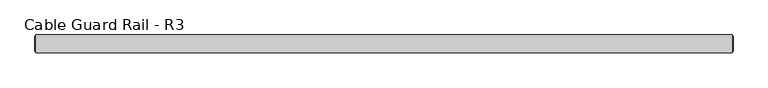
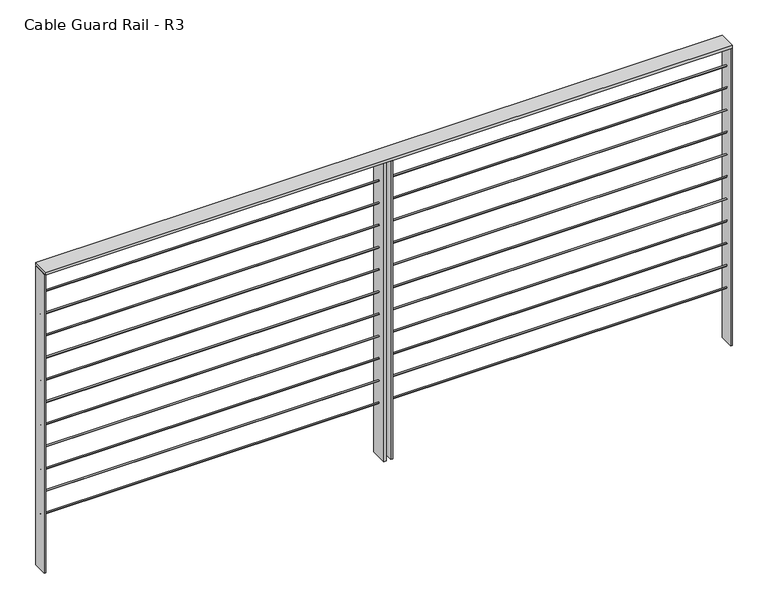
"""IFC4 building model written with IfcOpenShell, lengths in millimetres: railing geometry, Cable Guard Rail - R3."""

from ifc_helpers import new_model, si_unit, point, frame, frame_2d, origin, place, context, project, spatial, polyline, circle_curve, trimmed, segment, composite_curve, outline, extrude, source, transform, mapped, element, save


def cable_guard_rail_r3_f7cf98e5(model_context):
    return source(origin(), model_context, "Body", "SweptSolid", [
        extrude(outline(polyline([(37080.3654546, 222790.3454803), (37080.3654546, 222866.5454803), (40048.1015892, 222866.5454803), (40048.1015892, 222790.3454803), (37080.3654546, 222790.3454803)])), frame((0.0, 0.0, 295916.35), z_axis=(0.0, 0.0, 1.0), x_axis=(1.0, 0.0, 0.0)), (0.0, 0.0, 1.0), 12.7),
        extrude(outline(composite_curve([segment(trimmed(circle_curve(frame_2d((222828.4454803, 295814.75)), 3.175), [point((222825.2704803, 295814.75))], [point((222831.6204803, 295814.75))], False, "CARTESIAN"), True, "CONTINUOUS"), segment(trimmed(circle_curve(frame_2d((222828.4454803, 295814.75)), 3.175), [point((222831.6204803, 295814.75))], [point((222825.2704803, 295814.75))], False, "CARTESIAN"), True, "CONTINUOUS")], self_intersect=False)), frame((37080.3654546, 0.0, 0.0), z_axis=(1.0, 0.0, 0.0), x_axis=(0.0, 1.0, 0.0)), (0.0, 0.0, 1.0), 2967.7361346),
        extrude(outline(composite_curve([segment(trimmed(circle_curve(frame_2d((222828.4454803, 295713.15)), 3.175), [point((222825.2704803, 295713.15))], [point((222831.6204803, 295713.15))], False, "CARTESIAN"), True, "CONTINUOUS"), segment(trimmed(circle_curve(frame_2d((222828.4454803, 295713.15)), 3.175), [point((222831.6204803, 295713.15))], [point((222825.2704803, 295713.15))], False, "CARTESIAN"), True, "CONTINUOUS")], self_intersect=False)), frame((37080.3654546, 0.0, 0.0), z_axis=(1.0, 0.0, 0.0), x_axis=(0.0, 1.0, 0.0)), (0.0, 0.0, 1.0), 2967.7361346),
        extrude(outline(composite_curve([segment(trimmed(circle_curve(frame_2d((222828.4454803, 295611.55)), 3.175), [point((222825.2704803, 295611.55))], [point((222831.6204803, 295611.55))], False, "CARTESIAN"), True, "CONTINUOUS"), segment(trimmed(circle_curve(frame_2d((222828.4454803, 295611.55)), 3.175), [point((222831.6204803, 295611.55))], [point((222825.2704803, 295611.55))], False, "CARTESIAN"), True, "CONTINUOUS")], self_intersect=False)), frame((37080.3654546, 0.0, 0.0), z_axis=(1.0, 0.0, 0.0), x_axis=(0.0, 1.0, 0.0)), (0.0, 0.0, 1.0), 2967.7361346),
        extrude(outline(composite_curve([segment(trimmed(circle_curve(frame_2d((222828.4454803, 295509.95)), 3.175), [point((222825.2704803, 295509.95))], [point((222831.6204803, 295509.95))], False, "CARTESIAN"), True, "CONTINUOUS"), segment(trimmed(circle_curve(frame_2d((222828.4454803, 295509.95)), 3.175), [point((222831.6204803, 295509.95))], [point((222825.2704803, 295509.95))], False, "CARTESIAN"), True, "CONTINUOUS")], self_intersect=False)), frame((37080.3654546, 0.0, 0.0), z_axis=(1.0, 0.0, 0.0), x_axis=(0.0, 1.0, 0.0)), (0.0, 0.0, 1.0), 2967.7361346),
        extrude(outline(composite_curve([segment(trimmed(circle_curve(frame_2d((222828.4454803, 295408.35)), 3.175), [point((222825.2704803, 295408.35))], [point((222831.6204803, 295408.35))], False, "CARTESIAN"), True, "CONTINUOUS"), segment(trimmed(circle_curve(frame_2d((222828.4454803, 295408.35)), 3.175), [point((222831.6204803, 295408.35))], [point((222825.2704803, 295408.35))], False, "CARTESIAN"), True, "CONTINUOUS")], self_intersect=False)), frame((37080.3654546, 0.0, 0.0), z_axis=(1.0, 0.0, 0.0), x_axis=(0.0, 1.0, 0.0)), (0.0, 0.0, 1.0), 2967.7361346),
        extrude(outline(composite_curve([segment(trimmed(circle_curve(frame_2d((222828.4454803, 295306.75)), 3.175), [point((222825.2704803, 295306.75))], [point((222831.6204803, 295306.75))], False, "CARTESIAN"), True, "CONTINUOUS"), segment(trimmed(circle_curve(frame_2d((222828.4454803, 295306.75)), 3.175), [point((222831.6204803, 295306.75))], [point((222825.2704803, 295306.75))], False, "CARTESIAN"), True, "CONTINUOUS")], self_intersect=False)), frame((37080.3654546, 0.0, 0.0), z_axis=(1.0, 0.0, 0.0), x_axis=(0.0, 1.0, 0.0)), (0.0, 0.0, 1.0), 2967.7361346),
        extrude(outline(composite_curve([segment(trimmed(circle_curve(frame_2d((222828.4454803, 295205.15)), 3.175), [point((222825.2704803, 295205.15))], [point((222831.6204803, 295205.15))], False, "CARTESIAN"), True, "CONTINUOUS"), segment(trimmed(circle_curve(frame_2d((222828.4454803, 295205.15)), 3.175), [point((222831.6204803, 295205.15))], [point((222825.2704803, 295205.15))], False, "CARTESIAN"), True, "CONTINUOUS")], self_intersect=False)), frame((37080.3654546, 0.0, 0.0), z_axis=(1.0, 0.0, 0.0), x_axis=(0.0, 1.0, 0.0)), (0.0, 0.0, 1.0), 2967.7361346),
        extrude(outline(composite_curve([segment(trimmed(circle_curve(frame_2d((222828.4454803, 295103.55)), 3.175), [point((222825.2704803, 295103.55))], [point((222831.6204803, 295103.55))], False, "CARTESIAN"), True, "CONTINUOUS"), segment(trimmed(circle_curve(frame_2d((222828.4454803, 295103.55)), 3.175), [point((222831.6204803, 295103.55))], [point((222825.2704803, 295103.55))], False, "CARTESIAN"), True, "CONTINUOUS")], self_intersect=False)), frame((37080.3654546, 0.0, 0.0), z_axis=(1.0, 0.0, 0.0), x_axis=(0.0, 1.0, 0.0)), (0.0, 0.0, 1.0), 2967.7361346),
        extrude(outline(composite_curve([segment(trimmed(circle_curve(frame_2d((222828.4454803, 295001.95)), 3.175), [point((222825.2704803, 295001.95))], [point((222831.6204803, 295001.95))], False, "CARTESIAN"), True, "CONTINUOUS"), segment(trimmed(circle_curve(frame_2d((222828.4454803, 295001.95)), 3.175), [point((222831.6204803, 295001.95))], [point((222825.2704803, 295001.95))], False, "CARTESIAN"), True, "CONTINUOUS")], self_intersect=False)), frame((37080.3654546, 0.0, 0.0), z_axis=(1.0, 0.0, 0.0), x_axis=(0.0, 1.0, 0.0)), (0.0, 0.0, 1.0), 2967.7361346),
        extrude(outline(composite_curve([segment(trimmed(circle_curve(frame_2d((222828.4454803, 294900.35)), 3.175), [point((222825.2704803, 294900.35))], [point((222831.6204803, 294900.35))], False, "CARTESIAN"), True, "CONTINUOUS"), segment(trimmed(circle_curve(frame_2d((222828.4454803, 294900.35)), 3.175), [point((222831.6204803, 294900.35))], [point((222825.2704803, 294900.35))], False, "CARTESIAN"), True, "CONTINUOUS")], self_intersect=False)), frame((37080.3654546, 0.0, 0.0), z_axis=(1.0, 0.0, 0.0), x_axis=(0.0, 1.0, 0.0)), (0.0, 0.0, 1.0), 2967.7361346),
        extrude(outline(composite_curve([segment(trimmed(circle_curve(frame_2d((222828.4454803, 294798.75)), 3.175), [point((222825.2704803, 294798.75))], [point((222831.6204803, 294798.75))], False, "CARTESIAN"), True, "CONTINUOUS"), segment(trimmed(circle_curve(frame_2d((222828.4454803, 294798.75)), 3.175), [point((222831.6204803, 294798.75))], [point((222825.2704803, 294798.75))], False, "CARTESIAN"), True, "CONTINUOUS")], self_intersect=False)), frame((37080.3654546, 0.0, 0.0), z_axis=(1.0, 0.0, 0.0), x_axis=(0.0, 1.0, 0.0)), (0.0, 0.0, 1.0), 2967.7361346),
        extrude(outline(polyline([(38542.0085219, 222790.3454803), (38542.0085219, 222866.5454803), (38551.5335219, 222866.5454803), (38551.5335219, 222790.3454803), (38542.0085219, 222790.3454803)])), frame((0.0, 0.0, 294551.1), z_axis=(0.0, 0.0, 1.0), x_axis=(1.0, 0.0, 0.0)), (0.0, 0.0, 1.0), 1365.25),
        extrude(outline(polyline([(38570.5835219, 222790.3454803), (38570.5835219, 222866.5454803), (38580.0602865, 222866.5454803), (38580.0602865, 222790.3454803), (38570.5835219, 222790.3454803)])), frame((0.0, 0.0, 294551.1), z_axis=(0.0, 0.0, 1.0), x_axis=(1.0, 0.0, 0.0)), (0.0, 0.0, 1.0), 1365.25),
        extrude(outline(polyline([(40044.9265892, 222796.6954803), (40044.9265892, 222860.1954803), (40051.2765892, 222860.1954803), (40051.2765892, 222796.6954803), (40044.9265892, 222796.6954803)])), frame((0.0, 0.0, 294551.1), z_axis=(0.0, 0.0, 1.0), x_axis=(1.0, 0.0, 0.0)), (0.0, 0.0, 1.0), 1365.25),
        extrude(outline(polyline([(37077.1904546, 222796.6954803), (37077.1904546, 222860.1954803), (37083.5404546, 222860.1954803), (37083.5404546, 222796.6954803), (37077.1904546, 222796.6954803)])), frame((0.0, 0.0, 294551.1), z_axis=(0.0, 0.0, 1.0), x_axis=(1.0, 0.0, 0.0)), (0.0, 0.0, 1.0), 1365.25),
    ])


if __name__ == "__main__":
    model = new_model("IFC4")
    model_context = context("Model", 3, world=origin())
    ifc_project = project(units=[si_unit("LENGTHUNIT", "METRE", prefix="MILLI")], contexts=[model_context])
    site = spatial("IfcSite", under=ifc_project)
    building = spatial("IfcBuilding", under=site)
    placement = place(None, origin())
    cable_guard_rail_r3_shape = cable_guard_rail_r3_f7cf98e5(model_context)
    element("IfcRailing", 1, ObjectType="Cable Guard Rail - R3", at=placement, inside=building, context=model_context, shape_type="MappedRepresentation", body=[
        mapped(cable_guard_rail_r3_shape, transform((0.0, 0.0, 0.0), x_axis=(1.0, 0.0, 0.0), y_axis=(0.0, 1.0, 0.0), z_axis=(0.0, 0.0, 1.0))),
    ])
    save(model, "model.ifc")
